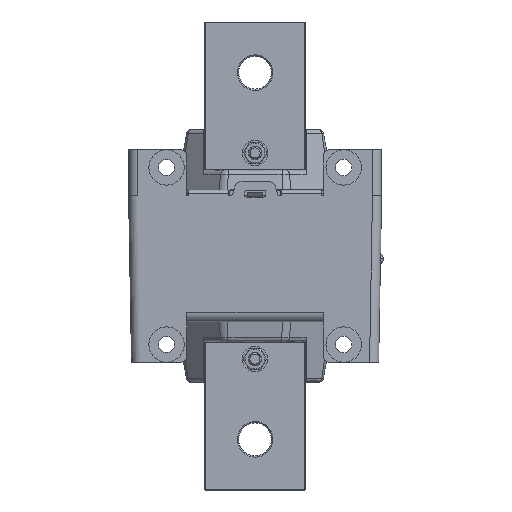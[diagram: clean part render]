
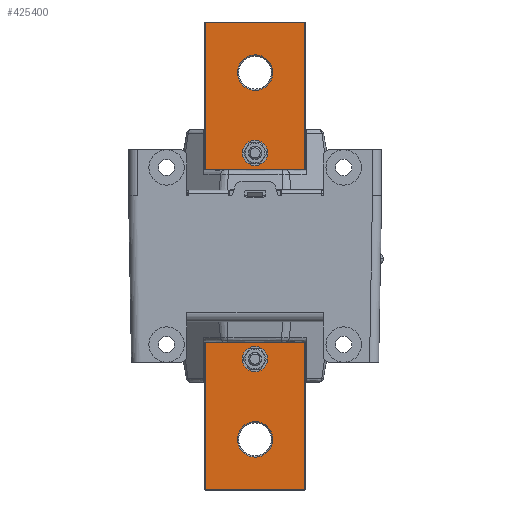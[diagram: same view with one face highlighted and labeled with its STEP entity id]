
A CAD part, front view. The second image highlights one B-rep face of the part: STEP entity #425400.
In plain terms, the highlighted planar face has unit normal (0, -1, 0).
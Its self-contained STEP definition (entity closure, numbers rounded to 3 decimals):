
#115570=CARTESIAN_POINT('',(4.924,-3.502,-71.75));
#115580=VERTEX_POINT('',#115570);
#115740=CARTESIAN_POINT('',(-5.076,-3.502,-71.75))
;
#115750=VERTEX_POINT('',#115740);
#115780=CARTESIAN_POINT('',(-0.076,-3.502,-71.75
));
#115790=DIRECTION('',(0.,1.,0.));
#115800=DIRECTION('',(1.,0.,0.));
#115810=AXIS2_PLACEMENT_3D('',#115780,#115790,#115800);
#115820=CIRCLE('',#115810,5.);
#115830=EDGE_CURVE('',#115750,#115580,#115820,.T.);
#129460=EDGE_CURVE('',#115580,#115750,#115820,.T.);
#226990=CARTESIAN_POINT('',(19.7,-3.502,-123.2));
#227000=VERTEX_POINT('',#226990);
#227310=CARTESIAN_POINT('',(-19.7,-3.502,-123.2));
#227320=VERTEX_POINT('',#227310);
#227350=CARTESIAN_POINT('',(0.,-3.502,
-123.2));
#227360=DIRECTION('',(-1.,0.,0.));
#227370=VECTOR('',#227360,1.);
#227380=LINE('',#227350,#227370);
#227390=EDGE_CURVE('',#227000,#227320,#227380,.T.);
#400680=CARTESIAN_POINT('',(-19.7,-3.502,61.2));
#400690=VERTEX_POINT('',#400680);
#400720=CARTESIAN_POINT('',(-19.7,-3.502,-31.));
#400730=DIRECTION('',(0.,0.,1.));
#400740=VECTOR('',#400730,1.);
#400750=LINE('',#400720,#400740);
#400760=EDGE_CURVE('',#227320,#400690,#400750,.T.);
#408390=CARTESIAN_POINT('',(19.7,-3.502,61.2));
#408400=VERTEX_POINT('',#408390);
#408660=CARTESIAN_POINT('',(19.7,-3.502,-31.));
#408670=DIRECTION('',(0.,0.,-1.));
#408680=VECTOR('',#408670,1.);
#408690=LINE('',#408660,#408680);
#408700=EDGE_CURVE('',#408400,#227000,#408690,.T.);
#410780=CARTESIAN_POINT('',(5.,-3.502,
9.75));
#410790=VERTEX_POINT('',#410780);
#410950=CARTESIAN_POINT('',(-5.,-3.502,
9.75));
#410960=VERTEX_POINT('',#410950);
#410990=CARTESIAN_POINT('',(0.,-3.502,
9.75));
#411000=DIRECTION('',(0.,1.,0.));
#411010=DIRECTION('',(1.,0.,0.));
#411020=AXIS2_PLACEMENT_3D('',#410990,#411000,#411010);
#411030=CIRCLE('',#411020,5.);
#411040=EDGE_CURVE('',#410960,#410790,#411030,.T.);
#424650=CARTESIAN_POINT('',(-7.,-3.502,41.5));
#424660=VERTEX_POINT('',#424650);
#424740=CARTESIAN_POINT('',(7.,-3.502,41.5));
#424750=VERTEX_POINT('',#424740);
#424780=CARTESIAN_POINT('',(0.,-3.502,41.5
));
#424790=DIRECTION('',(0.,-1.,0.));
#424800=DIRECTION('',(1.,0.,0.));
#424810=AXIS2_PLACEMENT_3D('',#424780,#424790,#424800);
#424820=CIRCLE('',#424810,7.);
#424830=EDGE_CURVE('',#424660,#424750,#424820,.T.);
#424950=CARTESIAN_POINT('',(-11.752,-3.502,
-69.803));
#424960=DIRECTION('',(0.,-1.,0.));
#424970=DIRECTION('',(1.,0.,0.));
#424980=AXIS2_PLACEMENT_3D('',#424950,#424960,#424970);
#424990=PLANE('',#424980);
#425000=ORIENTED_EDGE('',*,*,#129460,.T.);
#425010=ORIENTED_EDGE('',*,*,#115830,.T.);
#425020=EDGE_LOOP('',(#425010,#425000));
#425030=FACE_BOUND('',#425020,.T.);
#425040=EDGE_CURVE('',#410790,#410960,#411030,.T.);
#425050=ORIENTED_EDGE('',*,*,#425040,.T.);
#425060=ORIENTED_EDGE('',*,*,#411040,.T.);
#425070=EDGE_LOOP('',(#425060,#425050));
#425080=FACE_BOUND('',#425070,.T.);
#425090=CARTESIAN_POINT('',(0.,-3.502,
-103.5));
#425100=DIRECTION('',(0.,-1.,0.));
#425110=DIRECTION('',(1.,0.,0.));
#425120=AXIS2_PLACEMENT_3D('',#425090,#425100,#425110);
#425130=CIRCLE('',#425120,7.);
#425140=CARTESIAN_POINT('',(7.,-3.502,-103.5));
#425150=VERTEX_POINT('',#425140);
#425160=CARTESIAN_POINT('',(-7.,-3.502,-103.5))
;
#425170=VERTEX_POINT('',#425160);
#425180=EDGE_CURVE('',#425150,#425170,#425130,.T.);
#425190=ORIENTED_EDGE('',*,*,#425180,.F.);
#425200=EDGE_CURVE('',#425170,#425150,#425130,.T.);
#425210=ORIENTED_EDGE('',*,*,#425200,.F.);
#425220=EDGE_LOOP('',(#425210,#425190));
#425230=FACE_BOUND('',#425220,.T.);
#425240=EDGE_CURVE('',#424750,#424660,#424820,.T.);
#425250=ORIENTED_EDGE('',*,*,#425240,.F.);
#425260=ORIENTED_EDGE('',*,*,#424830,.F.);
#425270=EDGE_LOOP('',(#425260,#425250));
#425280=FACE_BOUND('',#425270,.T.);
#425290=CARTESIAN_POINT('',(0.,-3.502,61.2
));
#425300=DIRECTION('',(1.,0.,0.));
#425310=VECTOR('',#425300,1.);
#425320=LINE('',#425290,#425310);
#425330=EDGE_CURVE('',#400690,#408400,#425320,.T.);
#425340=ORIENTED_EDGE('',*,*,#425330,.F.);
#425350=ORIENTED_EDGE('',*,*,#408700,.F.);
#425360=ORIENTED_EDGE('',*,*,#227390,.F.);
#425370=ORIENTED_EDGE('',*,*,#400760,.F.);
#425380=EDGE_LOOP('',(#425370,#425360,#425350,#425340));
#425390=FACE_OUTER_BOUND('',#425380,.T.);
#425400=ADVANCED_FACE('',(#425030,#425080,#425230,#425280,#425390),
#424990,.T.);
